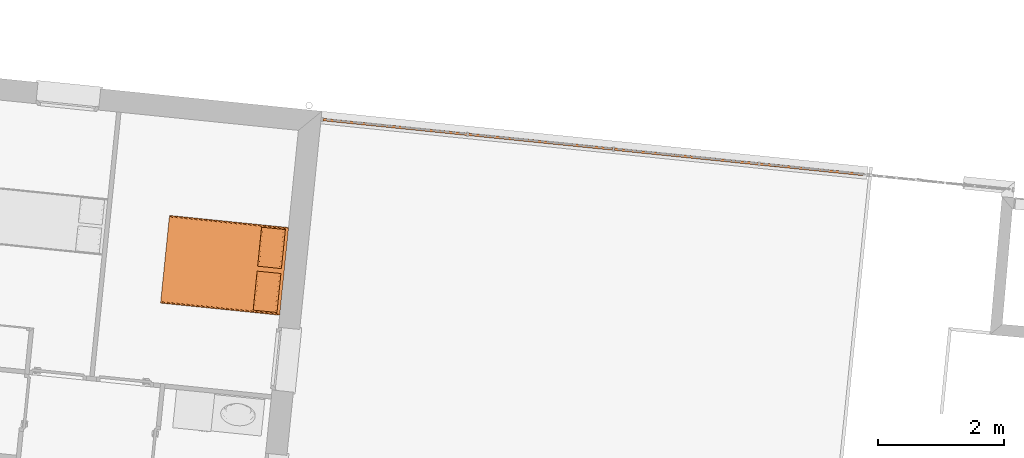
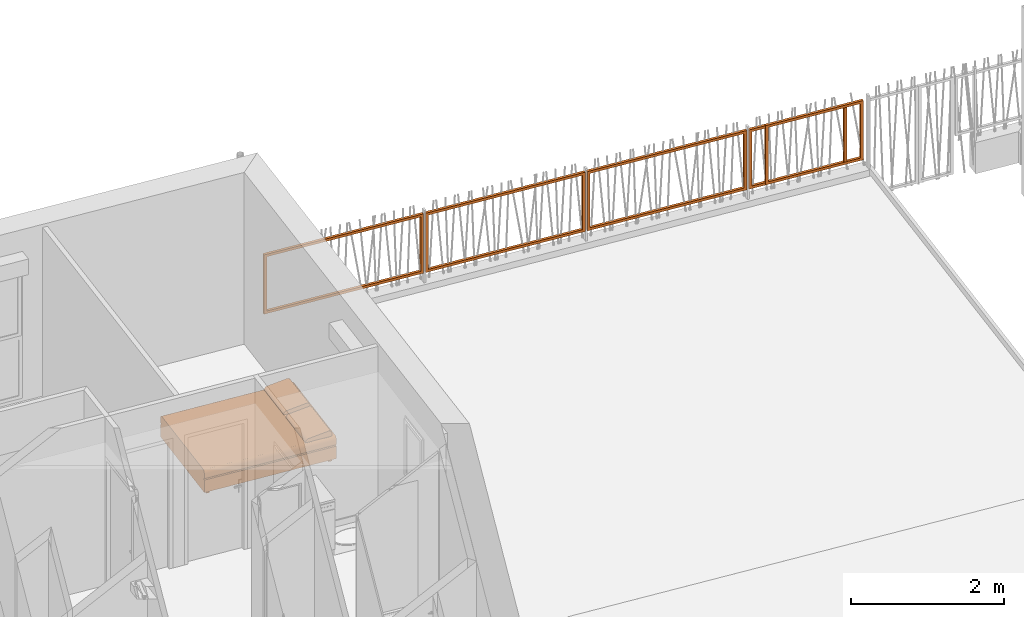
# One storey, part 166 of 171: 6 proxies.
"""IFC2X3 building model written with IfcOpenShell, lengths in millimetres."""

from ifc_helpers import new_model, entity, si_unit, converted_unit, derived_unit, money_unit, direction, frame, origin_with_axes, place, context, subcontext, project, spatial, open_shell, faceted_brep, surface_model, source, transform, mapped, type_object, element, save


model = new_model("IFC2X3")

# Units and contexts
model_context = context("Model", 3, precision=0.01, world=origin_with_axes(), true_north=direction((0.0, 1.0)))
body_context = subcontext(model_context, "Body", "Model", "MODEL_VIEW")
ifc_project = project(units=[si_unit("LENGTHUNIT", "METRE", prefix="MILLI"), si_unit("AREAUNIT", "SQUARE_METRE"), si_unit("VOLUMEUNIT", "CUBIC_METRE"), converted_unit("PLANEANGLEUNIT", "DEGREE", entity("IfcPlaneAngleMeasure", 0.0174532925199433), si_unit("PLANEANGLEUNIT", "RADIAN"), dimensions=[0, 0, 0, 0, 0, 0, 0]), money_unit("USD"), converted_unit("TIMEUNIT", "Year", entity("IfcTimeMeasure", 31557600.0), si_unit("TIMEUNIT", "SECOND"), dimensions=[0, 0, 1, 0, 0, 0, 0]), si_unit("MASSUNIT", "GRAM", prefix="KILO"), si_unit("THERMODYNAMICTEMPERATUREUNIT", "DEGREE_CELSIUS"), si_unit("LUMINOUSINTENSITYUNIT", "LUMEN"), si_unit("ENERGYUNIT", "JOULE", prefix="MEGA"), derived_unit("THERMALCONDUCTANCEUNIT", [(si_unit("POWERUNIT", "WATT"), 1), (si_unit("LENGTHUNIT", "METRE"), -1), (si_unit("THERMODYNAMICTEMPERATUREUNIT", "KELVIN"), -1)]), derived_unit("SPECIFICHEATCAPACITYUNIT", [(si_unit("ENERGYUNIT", "JOULE"), 1), (si_unit("MASSUNIT", "GRAM", prefix="KILO"), -1), (si_unit("THERMODYNAMICTEMPERATUREUNIT", "KELVIN"), -1)]), derived_unit("MASSDENSITYUNIT", [(si_unit("MASSUNIT", "GRAM", prefix="KILO"), 1), (si_unit("VOLUMEUNIT", "CUBIC_METRE"), -1)])], contexts=[model_context])

# Site, building, storey
site_placement = place(None, origin_with_axes())
site = spatial("IfcSite", under=ifc_project, at=site_placement, Name="Site", CompositionType="ELEMENT")
building_placement = place(site_placement, origin_with_axes())
building = spatial("IfcBuilding", under=site, at=building_placement, Name="Bâtiment", CompositionType="ELEMENT")
storey_placement = place(building_placement, frame((0.0, 0.0, 3000.0), z_axis=(0.0, 0.0, 1.0), x_axis=(1.0, 0.0, 0.0)))
storey = spatial("IfcBuildingStorey", under=building, at=storey_placement, Name="rdc", CompositionType="ELEMENT", Elevation=3000.0)

# Proxies
building_element_proxy_type = type_object("IfcBuildingElementProxyType", PredefinedType="NOTDEFINED")
shared_shape_1 = source(origin_with_axes(), body_context, "Body", "Brep", [
    faceted_brep([(0.0, 0.0, 50.0), (1406.595971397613, 0.0, 50.0), (1406.595971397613, -40.0, 50.0), (0.0, -40.0, 50.0), (0.0, 0.0, 1000.0), (1406.595971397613, 0.0, 1000.0), (40.0, 0.0, 90.0), (1366.595971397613, 0.0, 90.0), (1366.595971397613, 0.0, 960.0), (40.0, 0.0, 960.0), (1406.595971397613, -39.99999999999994, 1000.0), (0.0, -39.99999999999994, 1000.0), (40.0, -39.99999999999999, 90.0), (40.0, -39.99999999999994, 960.0), (1366.595971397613, -39.99999999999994, 960.0), (1366.595971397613, -39.99999999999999, 90.0)], [[[0, 1, 2, 3]], [[0, 4, 5, 1], [6, 7, 8, 9]], [[1, 5, 10, 2]], [[3, 2, 10, 11], [12, 13, 14, 15]], [[4, 0, 3, 11]], [[5, 4, 11, 10]], [[7, 6, 12, 15]], [[8, 7, 15, 14]], [[9, 8, 14, 13]], [[6, 9, 13, 12]]]),
])
for number, where, z_axis, x_axis, name in (
    (1, (2248771.524121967, -607259.7294006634, 200.0000000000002), (0.0, 0.0, 1.0), (-0.9948759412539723, 0.1011032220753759, 0.0), "Obj.-047"),
    (2, (2248534.687965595, -607235.6611751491, 200.0000000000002), (0.0, 0.0, 1.0), (-0.9948759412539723, 0.1011032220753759, 0.0), "Obj.-047"),
):
    element("IfcBuildingElementProxy", number, at=place(storey_placement, frame(where, z_axis=z_axis, x_axis=x_axis)), inside=storey, type_object=building_element_proxy_type, Name=name, context=body_context, shape_type="MappedRepresentation", body=[
        mapped(shared_shape_1, transform((0.0, 0.0, 0.0))),
    ])
shared_shape_2 = source(origin_with_axes(), body_context, "Body", "SurfaceModel", [
    faceted_brep([(-622.2222222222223, -95.0, 0.0), (-661.1111111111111, -95.0, 0.0), (-661.1111111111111, -47.5, 0.0), (-622.2222222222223, -47.5, 0.0), (-622.2222222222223, -95.0, 50.0), (-661.1111111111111, -95.0, 50.0), (-661.1111111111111, -47.5, 50.0), (-622.2222222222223, -47.5, 50.0)], [[[0, 1, 2, 3]], [[1, 0, 4, 5]], [[2, 1, 5, 6]], [[3, 2, 6, 7]], [[0, 3, 7, 4]], [[5, 4, 7, 6]]]),
    faceted_brep([(-622.2222222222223, -1852.5, 0.0), (-661.1111111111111, -1852.5, 0.0), (-661.1111111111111, -1805.0, 0.0), (-622.2222222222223, -1805.0, 0.0), (-622.2222222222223, -1852.5, 50.0), (-661.1111111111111, -1852.5, 50.0), (-661.1111111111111, -1805.0, 50.0), (-622.2222222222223, -1805.0, 50.0)], [[[0, 1, 2, 3]], [[1, 0, 4, 5]], [[2, 1, 5, 6]], [[3, 2, 6, 7]], [[0, 3, 7, 4]], [[5, 4, 7, 6]]]),
    faceted_brep([(661.111111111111, -1852.5, 0.0), (622.2222222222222, -1852.5, 0.0), (622.2222222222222, -1805.0, 0.0), (661.111111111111, -1805.0, 0.0), (661.111111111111, -1852.5, 50.0), (622.2222222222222, -1852.5, 50.0), (622.2222222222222, -1805.0, 50.0), (661.111111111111, -1805.0, 50.0)], [[[0, 1, 2, 3]], [[1, 0, 4, 5]], [[2, 1, 5, 6]], [[3, 2, 6, 7]], [[0, 3, 7, 4]], [[5, 4, 7, 6]]]),
    faceted_brep([(661.111111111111, -94.99999999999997, 0.0), (622.2222222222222, -94.99999999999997, 0.0), (622.2222222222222, -47.49999999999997, 0.0), (661.111111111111, -47.49999999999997, 0.0), (661.111111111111, -94.99999999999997, 50.0), (622.2222222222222, -94.99999999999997, 50.0), (622.2222222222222, -47.49999999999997, 50.0), (661.111111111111, -47.49999999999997, 50.0)], [[[0, 1, 2, 3]], [[1, 0, 4, 5]], [[2, 1, 5, 6]], [[3, 2, 6, 7]], [[0, 3, 7, 4]], [[5, 4, 7, 6]]]),
    faceted_brep([(-700.0, 0.0, 50.0), (700.0, 0.0, 50.0), (700.0, -1900.0, 50.00000000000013), (-700.0, -1900.0, 50.00000000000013), (-700.0, 0.0, 250.0), (700.0, 0.0, 250.0), (700.0, -1900.0, 250.0000000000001), (-700.0, -1900.0, 250.0000000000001)], [[[0, 1, 2, 3]], [[0, 4, 5, 1]], [[1, 5, 6, 2]], [[3, 2, 6, 7]], [[4, 0, 3, 7]], [[5, 4, 7, 6]]]),
    surface_model("IfcShellBasedSurfaceModel", [(661.1111111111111, 0.0, 250.0), (667.8640957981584, 0.0, 250.7596123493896), (667.8640957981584, -1900.0, 250.7596123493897), (661.1111111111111, -1900.0, 250.0000000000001), (-661.1111111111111, 0.0, 250.0), (-667.8640957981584, 0.0, 250.7596123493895), (-674.4118944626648, 0.0, 253.0153689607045), (-680.5555555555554, 0.0, 256.698729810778), (-686.1084070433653, 0.0, 261.6977778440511), (-690.9017283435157, 0.0, 267.860619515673), (-694.7898768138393, 0.0, 275.0), (-697.654713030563, 0.0, 282.8989928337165), (-699.4091903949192, 0.0, 291.3175911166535), (-700.0, 0.0, 300.0000000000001), (-700.0000000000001, 0.0, 350.0), (-699.4091903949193, 0.0, 358.6824088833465), (-697.654713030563, 0.0, 367.1010071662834), (-694.7898768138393, 0.0, 375.0), (-690.9017283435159, 0.0, 382.139380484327), (-686.1084070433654, 0.0, 388.3022221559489), (-680.5555555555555, 0.0, 393.301270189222), (-674.4118944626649, 0.0, 396.9846310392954), (-667.8640957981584, 0.0, 399.2403876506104), (-661.1111111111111, 0.0, 400.0), (661.111111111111, 0.0, 400.0000000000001), (667.8640957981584, 0.0, 399.2403876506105), (674.4118944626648, 0.0, 396.9846310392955), (680.5555555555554, 0.0, 393.301270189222), (686.1084070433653, 0.0, 388.3022221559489), (690.9017283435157, 0.0, 382.139380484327), (694.7898768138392, 0.0, 375.0000000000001), (697.654713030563, 0.0, 367.1010071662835), (699.4091903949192, 0.0, 358.6824088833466), (700.0, 0.0, 350.0000000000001), (700.0, 0.0, 300.0000000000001), (699.4091903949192, 0.0, 291.3175911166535), (697.654713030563, 0.0, 282.8989928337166), (694.7898768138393, 0.0, 275.0), (690.9017283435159, 0.0, 267.8606195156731), (686.1084070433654, 0.0, 261.6977778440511), (680.5555555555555, 0.0, 256.698729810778), (674.4118944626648, 0.0, 253.0153689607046), (674.4118944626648, -1900.0, 253.0153689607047), (-661.1111111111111, -1900.0, 250.0000000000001), (680.5555555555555, -1900.0, 256.6987298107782), (686.1084070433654, -1900.0, 261.6977778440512), (690.9017283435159, -1900.0, 267.8606195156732), (694.7898768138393, -1900.0, 275.0000000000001), (697.654713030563, -1900.0, 282.8989928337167), (699.4091903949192, -1900.0, 291.3175911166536), (700.0, -1900.0, 300.0000000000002), (700.0, -1900.0, 350.0000000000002), (699.4091903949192, -1900.0, 358.6824088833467), (697.654713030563, -1900.0, 367.1010071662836), (694.7898768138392, -1900.0, 375.0000000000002), (690.9017283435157, -1900.0, 382.1393804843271), (686.1084070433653, -1900.0, 388.302222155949), (680.5555555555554, -1900.0, 393.3012701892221), (674.4118944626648, -1900.0, 396.9846310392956), (667.8640957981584, -1900.0, 399.2403876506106), (661.111111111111, -1900.0, 400.0000000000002), (-661.1111111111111, -1900.0, 400.0000000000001), (-667.8640957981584, -1900.0, 399.2403876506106), (-674.4118944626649, -1900.0, 396.9846310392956), (-680.5555555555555, -1900.0, 393.3012701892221), (-686.1084070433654, -1900.0, 388.302222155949), (-690.9017283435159, -1900.0, 382.1393804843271), (-694.7898768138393, -1900.0, 375.0000000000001), (-697.654713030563, -1900.0, 367.1010071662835), (-699.4091903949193, -1900.0, 358.6824088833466), (-700.0000000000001, -1900.0, 350.0000000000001), (-700.0, -1900.0, 300.0000000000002), (-699.4091903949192, -1900.0, 291.3175911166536), (-697.654713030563, -1900.0, 282.8989928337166), (-694.7898768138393, -1900.0, 275.0000000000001), (-690.9017283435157, -1900.0, 267.8606195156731), (-686.1084070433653, -1900.0, 261.6977778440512), (-680.5555555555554, -1900.0, 256.6987298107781), (-674.4118944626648, -1900.0, 253.0153689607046), (-667.8640957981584, -1900.0, 250.7596123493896)], [open_shell([[[0, 1, 2, 3]], [[4, 5, 6, 7, 8, 9, 10, 11, 12, 13, 14, 15, 16, 17, 18, 19, 20, 21, 22, 23, 24, 25, 26, 27, 28, 29, 30, 31, 32, 33, 34, 35, 36, 37, 38, 39, 40, 41, 1, 0]], [[1, 41, 42, 2]], [[43, 3, 2, 42, 44, 45, 46, 47, 48, 49, 50, 51, 52, 53, 54, 55, 56, 57, 58, 59, 60, 61, 62, 63, 64, 65, 66, 67, 68, 69, 70, 71, 72, 73, 74, 75, 76, 77, 78, 79]], [[5, 4, 43, 79]], [[6, 5, 79, 78]], [[7, 6, 78, 77]], [[8, 7, 77, 76]], [[9, 8, 76, 75]], [[10, 9, 75, 74]], [[11, 10, 74, 73]], [[12, 11, 73, 72]], [[13, 12, 72, 71]], [[14, 13, 71, 70]], [[15, 14, 70, 69]], [[16, 15, 69, 68]], [[17, 16, 68, 67]], [[18, 17, 67, 66]], [[19, 18, 66, 65]], [[20, 19, 65, 64]], [[21, 20, 64, 63]], [[22, 21, 63, 62]], [[23, 22, 62, 61]], [[24, 23, 61, 60]], [[25, 24, 60, 59]], [[26, 25, 59, 58]], [[27, 26, 58, 57]], [[28, 27, 57, 56]], [[29, 28, 56, 55]], [[30, 29, 55, 54]], [[31, 30, 54, 53]], [[32, 31, 53, 52]], [[33, 32, 52, 51]], [[34, 33, 51, 50]], [[35, 34, 50, 49]], [[36, 35, 49, 48]], [[37, 36, 48, 47]], [[38, 37, 47, 46]], [[39, 38, 46, 45]], [[40, 39, 45, 44]], [[41, 40, 44, 42]]])]),
    faceted_brep([(38.88888888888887, -47.49999999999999, 400.0), (38.88888888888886, -47.49999999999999, 443.4), (661.1111111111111, -47.50000000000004, 443.4000000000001), (661.1111111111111, -47.50000000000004, 400.0000000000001), (38.88888888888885, -427.5, 400.0), (38.88888888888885, -427.6960812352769, 408.695442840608), (38.88888888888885, -426.4675711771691, 417.2966661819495), (38.88888888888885, -423.8511300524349, 425.5469991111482), (38.88888888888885, -419.9248356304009, 433.2002417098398), (38.88888888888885, -414.8058532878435, 440.0280119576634), (38.88888888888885, -408.6469396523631, 445.826560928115), (38.88888888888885, -401.6318841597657, 450.4228529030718), (38.88888888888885, -393.9700245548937, 453.6797289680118), (38.88888888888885, -385.89, 455.5), (38.88888888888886, -100.89, 493.0000000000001), (38.88888888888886, -92.85488048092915, 493.3370808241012), (38.88888888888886, -84.88093291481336, 492.2422169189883), (38.88888888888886, -77.19681007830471, 489.7468034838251), (38.88888888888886, -70.02285403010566, 485.922396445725), (38.88888888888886, -63.56477780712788, 480.878660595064), (38.88888888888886, -58.00776660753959, 474.7602249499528), (38.88888888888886, -53.51116760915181, 467.7425355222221), (38.88888888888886, -50.20392069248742, 460.0268244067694), (38.88888888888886, -48.18086109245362, 451.834339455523), (661.1111111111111, -48.18086109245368, 451.8343394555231), (661.1111111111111, -50.20392069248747, 460.0268244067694), (661.1111111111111, -53.51116760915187, 467.7425355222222), (661.1111111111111, -58.00776660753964, 474.7602249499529), (661.1111111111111, -63.56477780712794, 480.878660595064), (661.1111111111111, -70.02285403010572, 485.922396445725), (661.1111111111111, -77.19681007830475, 489.7468034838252), (661.1111111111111, -84.88093291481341, 492.2422169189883), (661.1111111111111, -92.85488048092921, 493.3370808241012), (661.1111111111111, -100.8900000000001, 493.0000000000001), (661.1111111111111, -385.89, 455.5000000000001), (661.1111111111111, -393.9700245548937, 453.6797289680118), (661.1111111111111, -401.6318841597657, 450.4228529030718), (661.1111111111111, -408.6469396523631, 445.826560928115), (661.1111111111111, -414.8058532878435, 440.0280119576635), (661.1111111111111, -419.924835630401, 433.2002417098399), (661.1111111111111, -423.8511300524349, 425.5469991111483), (661.1111111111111, -426.4675711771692, 417.2966661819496), (661.1111111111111, -427.6960812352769, 408.6954428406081), (661.1111111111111, -427.5, 400.0000000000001)], [[[0, 1, 2, 3]], [[0, 4, 5, 6, 7, 8, 9, 10, 11, 12, 13, 14, 15, 16, 17, 18, 19, 20, 21, 22, 23, 1]], [[1, 23, 24, 2]], [[3, 2, 24, 25, 26, 27, 28, 29, 30, 31, 32, 33, 34, 35, 36, 37, 38, 39, 40, 41, 42, 43]], [[4, 0, 3, 43]], [[5, 4, 43, 42]], [[6, 5, 42, 41]], [[7, 6, 41, 40]], [[8, 7, 40, 39]], [[9, 8, 39, 38]], [[10, 9, 38, 37]], [[11, 10, 37, 36]], [[12, 11, 36, 35]], [[13, 12, 35, 34]], [[14, 13, 34, 33]], [[15, 14, 33, 32]], [[16, 15, 32, 31]], [[17, 16, 31, 30]], [[18, 17, 30, 29]], [[19, 18, 29, 28]], [[20, 19, 28, 27]], [[21, 20, 27, 26]], [[22, 21, 26, 25]], [[23, 22, 25, 24]]]),
    faceted_brep([(-661.1111111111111, -47.49999999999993, 399.9999999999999), (-661.1111111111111, -47.49999999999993, 443.4), (-38.88888888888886, -47.49999999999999, 443.4), (-38.88888888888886, -47.49999999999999, 400.0), (-661.1111111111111, -427.4999999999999, 399.9999999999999), (-661.1111111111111, -427.6960812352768, 408.6954428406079), (-661.1111111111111, -426.4675711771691, 417.2966661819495), (-661.1111111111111, -423.8511300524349, 425.5469991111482), (-661.1111111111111, -419.9248356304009, 433.2002417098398), (-661.1111111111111, -414.8058532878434, 440.0280119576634), (-661.1111111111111, -408.646939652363, 445.8265609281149), (-661.1111111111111, -401.6318841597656, 450.4228529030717), (-661.1111111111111, -393.9700245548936, 453.6797289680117), (-661.1111111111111, -385.8899999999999, 455.4999999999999), (-661.1111111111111, -100.89, 493.0), (-661.1111111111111, -92.8548804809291, 493.3370808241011), (-661.1111111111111, -84.8809329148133, 492.2422169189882), (-661.1111111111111, -77.19681007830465, 489.7468034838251), (-661.1111111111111, -70.0228540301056, 485.9223964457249), (-661.1111111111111, -63.56477780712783, 480.8786605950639), (-661.1111111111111, -58.00776660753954, 474.7602249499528), (-661.1111111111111, -53.51116760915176, 467.7425355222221), (-661.1111111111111, -50.20392069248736, 460.0268244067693), (-661.1111111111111, -48.18086109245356, 451.834339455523), (-38.88888888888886, -48.18086109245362, 451.834339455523), (-38.88888888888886, -50.20392069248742, 460.0268244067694), (-38.88888888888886, -53.51116760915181, 467.7425355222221), (-38.88888888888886, -58.00776660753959, 474.7602249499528), (-38.88888888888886, -63.56477780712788, 480.878660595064), (-38.88888888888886, -70.02285403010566, 485.922396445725), (-38.88888888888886, -77.19681007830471, 489.7468034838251), (-38.88888888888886, -84.88093291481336, 492.2422169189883), (-38.88888888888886, -92.85488048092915, 493.3370808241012), (-38.88888888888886, -100.89, 493.0000000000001), (-38.88888888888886, -385.8899999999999, 455.5), (-38.88888888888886, -393.9700245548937, 453.6797289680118), (-38.88888888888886, -401.6318841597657, 450.4228529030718), (-38.88888888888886, -408.6469396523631, 445.826560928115), (-38.88888888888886, -414.8058532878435, 440.0280119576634), (-38.88888888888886, -419.9248356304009, 433.2002417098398), (-38.88888888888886, -423.8511300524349, 425.5469991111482), (-38.88888888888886, -426.4675711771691, 417.2966661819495), (-38.88888888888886, -427.6960812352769, 408.695442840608), (-38.88888888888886, -427.4999999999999, 400.0)], [[[0, 1, 2, 3]], [[0, 4, 5, 6, 7, 8, 9, 10, 11, 12, 13, 14, 15, 16, 17, 18, 19, 20, 21, 22, 23, 1]], [[1, 23, 24, 2]], [[3, 2, 24, 25, 26, 27, 28, 29, 30, 31, 32, 33, 34, 35, 36, 37, 38, 39, 40, 41, 42, 43]], [[4, 0, 3, 43]], [[5, 4, 43, 42]], [[6, 5, 42, 41]], [[7, 6, 41, 40]], [[8, 7, 40, 39]], [[9, 8, 39, 38]], [[10, 9, 38, 37]], [[11, 10, 37, 36]], [[12, 11, 36, 35]], [[13, 12, 35, 34]], [[14, 13, 34, 33]], [[15, 14, 33, 32]], [[16, 15, 32, 31]], [[17, 16, 31, 30]], [[18, 17, 30, 29]], [[19, 18, 29, 28]], [[20, 19, 28, 27]], [[21, 20, 27, 26]], [[22, 21, 26, 25]], [[23, 22, 25, 24]]]),
])
proxy_placement = place(storey_placement, frame((2239584.382880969, -608776.851864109, 0.0), z_axis=(0.0, 0.0, 1.0), x_axis=(-0.1011033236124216, -0.9948759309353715, 0.0)))
element("IfcBuildingElementProxy", 3, at=proxy_placement, inside=storey, type_object=building_element_proxy_type, Name="Obj.-003", context=body_context, shape_type="MappedRepresentation", body=[
    mapped(shared_shape_2, transform((0.0, 0.0, 0.0))),
])
shared_shape_3 = source(origin_with_axes(), body_context, "Body", "Brep", [
    faceted_brep([(0.0, 0.0, 50.0), (2294.467978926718, 0.0, 50.0), (2294.467978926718, -40.0, 50.0), (0.0, -40.0, 50.0), (0.0, 0.0, 1000.0), (2294.467978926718, 0.0, 1000.0), (40.0, 0.0, 90.0), (2254.467978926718, 0.0, 90.0), (2254.467978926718, 0.0, 960.0), (40.0, 0.0, 960.0), (2294.467978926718, -39.99999999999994, 1000.0), (0.0, -39.99999999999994, 1000.0), (40.0, -39.99999999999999, 90.0), (40.0, -39.99999999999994, 960.0), (2254.467978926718, -39.99999999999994, 960.0), (2254.467978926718, -39.99999999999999, 90.0)], [[[0, 1, 2, 3]], [[0, 4, 5, 1], [6, 7, 8, 9]], [[1, 5, 10, 2]], [[3, 2, 10, 11], [12, 13, 14, 15]], [[4, 0, 3, 11]], [[5, 4, 11, 10]], [[7, 6, 12, 15]], [[8, 7, 15, 14]], [[9, 8, 14, 13]], [[6, 9, 13, 12]]]),
])
for number, where, z_axis, x_axis, name in (
    (4, (2242480.33865945, -606620.3942890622, 200.0000000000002), (0.0, 0.0, 1.0), (-0.9948759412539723, 0.1011032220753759, 0.0), "Obj.-047"),
    (5, (2244792.8959279, -606855.4054913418, 200.0000000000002), (0.0, 0.0, 1.0), (-0.9948759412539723, 0.1011032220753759, 0.0), "Obj.-047"),
    (6, (2247105.453196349, -607090.4166936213, 200.0000000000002), (0.0, 0.0, 1.0), (-0.9948759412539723, 0.1011032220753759, 0.0), "Obj.-047"),
):
    element("IfcBuildingElementProxy", number, at=place(storey_placement, frame(where, z_axis=z_axis, x_axis=x_axis)), inside=storey, type_object=building_element_proxy_type, Name=name, context=body_context, shape_type="MappedRepresentation", body=[
        mapped(shared_shape_3, transform((0.0, 0.0, 0.0))),
    ])

save(model, "model.ifc")
